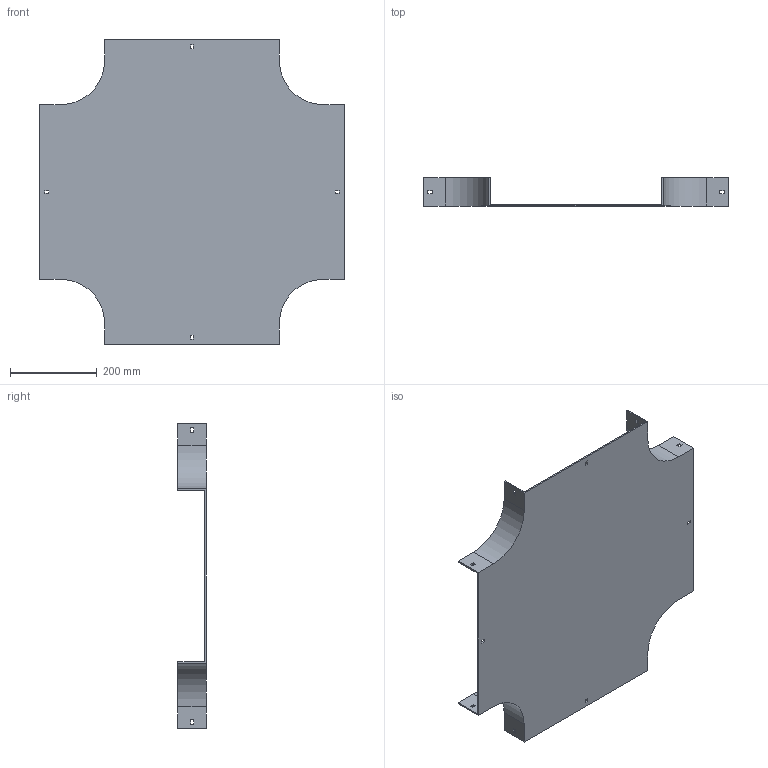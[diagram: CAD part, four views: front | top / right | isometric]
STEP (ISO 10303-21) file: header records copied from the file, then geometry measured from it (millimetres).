
FILE_DESCRIPTION (( 'STEP AP214' ), '1' );
FILE_NAME ('17B1H400.step', '2025-02-21T09:57:52', ( '' ), ( '' ), 'SwSTEP 2.0', 'SolidWorks 2023', '' );
FILE_SCHEMA (( 'AUTOMOTIVE_DESIGN' ));
Length unit declared in the file: millimetre
Products named in the file (1): 17B1H400
Bounding box: 704 x 65.5 x 704 mm (x, y, z)
Volume: 1672452.4 mm3; surface area: 968064.2 mm2
Topology: 1 solids, 1 shells, 82 faces, 240 edges, 160 vertices
Faces by surface type: plane 74, cylinder 8
Entity records: 2751 total; most frequent: CARTESIAN_POINT 483, ORIENTED_EDGE 480, DIRECTION 422, EDGE_CURVE 240, LINE 224, VECTOR 224, VERTEX_POINT 160, EDGE_LOOP 106
